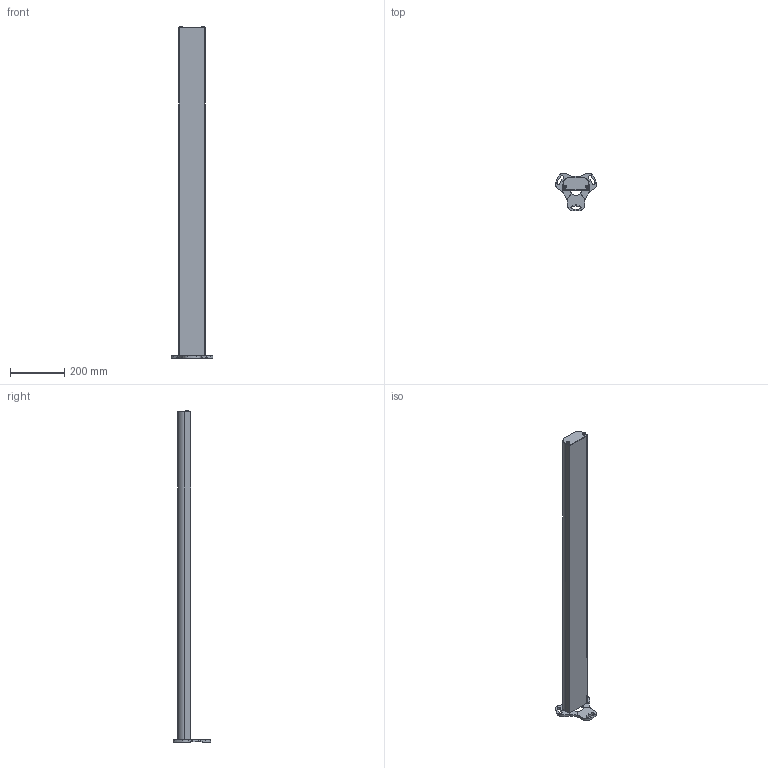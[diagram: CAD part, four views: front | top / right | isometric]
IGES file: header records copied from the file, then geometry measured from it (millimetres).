
Global section: file name: H305520_A_mirror_column_120_PSEN_opII_Kundendaten; native system: Autodesk Inventor 2017; preprocessor: unknown; author: damb; date: 20180405.141914; units: millimetre
Bounding box: 153.46 x 139.2 x 1223.25 mm (x, y, z)
Volume: 5112717.1 mm3; surface area: 358529.7 mm2
Topology: 3 solids, 3 shells, 135 faces, 368 edges, 245 vertices
Faces by surface type: bspline 135
